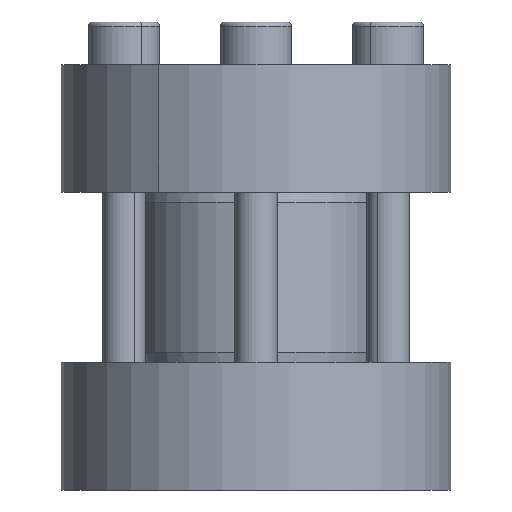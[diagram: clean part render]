
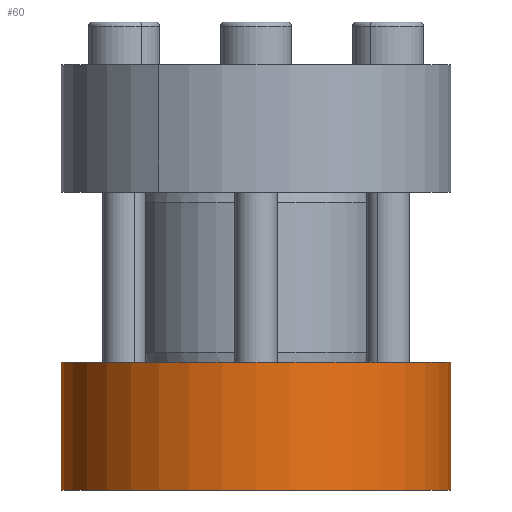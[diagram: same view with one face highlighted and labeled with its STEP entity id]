
A CAD part, front view. The second image highlights one B-rep face of the part: STEP entity #60.
In plain terms, the highlighted cylindrical face has radius 27.5 mm (diameter 55 mm), a partial arc.
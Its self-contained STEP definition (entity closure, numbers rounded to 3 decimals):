
#60 = ADVANCED_FACE ( 'NONE', ( #984 ), #7675, .T. ) ;
#73 = CARTESIAN_POINT ( 'NONE',  ( 27.5, 0., 16.493 ) ) ;
#173 = DIRECTION ( 'NONE',  ( 0., 0., -1. ) ) ;
#354 = CARTESIAN_POINT ( 'NONE',  ( 27.5, 0., -1.507 ) ) ;
#472 = CARTESIAN_POINT ( 'NONE',  ( -27.5, 0., 16.493 ) ) ;
#687 = VECTOR ( 'NONE', #2777, 1000. ) ;
#807 = CARTESIAN_POINT ( 'NONE',  ( 0., 0., -1.507 ) ) ;
#984 = FACE_OUTER_BOUND ( 'NONE', #6576, .T. ) ;
#1189 = ORIENTED_EDGE ( 'NONE', *, *, #8393, .F. ) ;
#1518 = CARTESIAN_POINT ( 'NONE',  ( -27.5, 0., -1.507 ) ) ;
#1532 = DIRECTION ( 'NONE',  ( 1., 0., 0. ) ) ;
#1783 = CARTESIAN_POINT ( 'NONE',  ( 0., 0., 16.493 ) ) ;
#2178 = CIRCLE ( 'NONE', #7419, 27.5 ) ;
#2308 = ORIENTED_EDGE ( 'NONE', *, *, #8455, .T. ) ;
#2423 = VERTEX_POINT ( 'NONE', #354 ) ;
#2429 = AXIS2_PLACEMENT_3D ( 'NONE', #807, #5758, #1532 ) ;
#2777 = DIRECTION ( 'NONE',  ( 0., 0., -1. ) ) ;
#2812 = DIRECTION ( 'NONE',  ( 0., 0., 1. ) ) ;
#2878 = VERTEX_POINT ( 'NONE', #1518 ) ;
#2941 = CARTESIAN_POINT ( 'NONE',  ( -27.5, 0., 16.493 ) ) ;
#3552 = EDGE_CURVE ( 'NONE', #5533, #2878, #6019, .T. ) ;
#3892 = DIRECTION ( 'NONE',  ( 0., 0., -1. ) ) ;
#4456 = LINE ( 'NONE', #6331, #687 ) ;
#5533 = VERTEX_POINT ( 'NONE', #472 ) ;
#5758 = DIRECTION ( 'NONE',  ( 0., 0., 1. ) ) ;
#5763 = ORIENTED_EDGE ( 'NONE', *, *, #6234, .F. ) ;
#6019 = LINE ( 'NONE', #2941, #7942 ) ;
#6214 = AXIS2_PLACEMENT_3D ( 'NONE', #1783, #3892, #6757 ) ;
#6234 = EDGE_CURVE ( 'NONE', #5533, #9035, #2178, .T. ) ;
#6331 = CARTESIAN_POINT ( 'NONE',  ( 27.5, 0., 16.493 ) ) ;
#6576 = EDGE_LOOP ( 'NONE', ( #1189, #5763, #8963, #2308 ) ) ;
#6757 = DIRECTION ( 'NONE',  ( -1., 0., 0. ) ) ;
#7095 = CARTESIAN_POINT ( 'NONE',  ( 0., 0., 16.493 ) ) ;
#7419 = AXIS2_PLACEMENT_3D ( 'NONE', #7095, #2812, #7812 ) ;
#7466 = CIRCLE ( 'NONE', #2429, 27.5 ) ;
#7675 = CYLINDRICAL_SURFACE ( 'NONE', #6214, 27.5 ) ;
#7812 = DIRECTION ( 'NONE',  ( 1., 0., 0. ) ) ;
#7942 = VECTOR ( 'NONE', #173, 1000. ) ;
#8393 = EDGE_CURVE ( 'NONE', #9035, #2423, #4456, .T. ) ;
#8455 = EDGE_CURVE ( 'NONE', #2878, #2423, #7466, .T. ) ;
#8963 = ORIENTED_EDGE ( 'NONE', *, *, #3552, .T. ) ;
#9035 = VERTEX_POINT ( 'NONE', #73 ) ;
